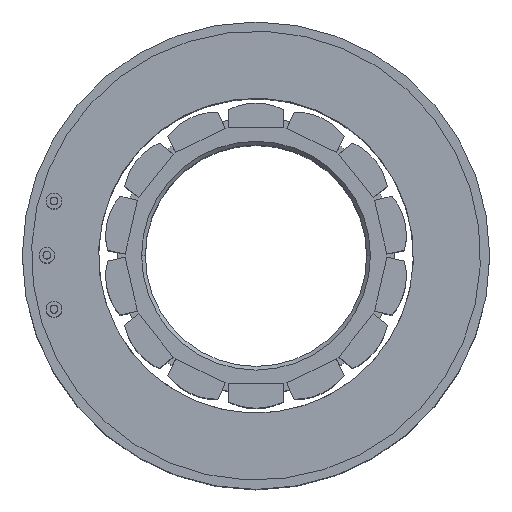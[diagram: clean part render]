
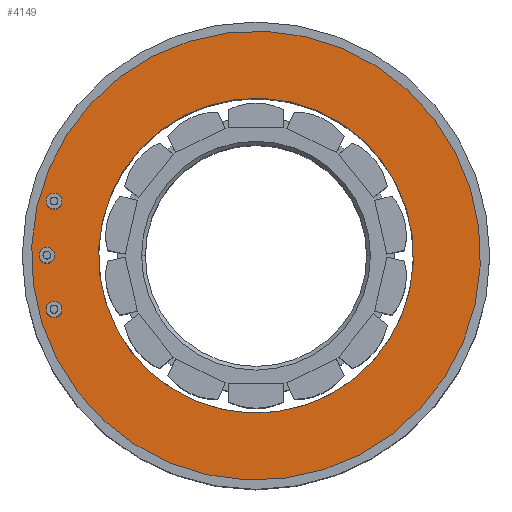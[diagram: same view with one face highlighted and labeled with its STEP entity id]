
A CAD part, top view. The second image highlights one B-rep face of the part: STEP entity #4149.
In plain terms, the highlighted planar face has unit normal (0, 0, 1).
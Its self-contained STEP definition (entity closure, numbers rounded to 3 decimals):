
#92 = CARTESIAN_POINT ( 'NONE',  ( 0., 0., 30.8 ) ) ;
#102 = ORIENTED_EDGE ( 'NONE', *, *, #680, .F. ) ;
#168 = CARTESIAN_POINT ( 'NONE',  ( 0., 0., 30.8 ) ) ;
#285 = EDGE_LOOP ( 'NONE', ( #2591, #807 ) ) ;
#353 = AXIS2_PLACEMENT_3D ( 'NONE', #168, #2746, #1538 ) ;
#435 = FACE_BOUND ( 'NONE', #475, .T. ) ;
#475 = EDGE_LOOP ( 'NONE', ( #102, #2795 ) ) ;
#626 = AXIS2_PLACEMENT_3D ( 'NONE', #3591, #1326, #2178 ) ;
#680 = EDGE_CURVE ( 'NONE', #5656, #1896, #3918, .T. ) ;
#708 = DIRECTION ( 'NONE',  ( 0., 0., 1. ) ) ;
#745 = CARTESIAN_POINT ( 'NONE',  ( 0., 0., 30.8 ) ) ;
#762 = CARTESIAN_POINT ( 'NONE',  ( 9.844, 15.367, 30.8 ) ) ;
#807 = ORIENTED_EDGE ( 'NONE', *, *, #4401, .T. ) ;
#812 = DIRECTION ( 'NONE',  ( 0., 0., 1. ) ) ;
#930 = VERTEX_POINT ( 'NONE', #762 ) ;
#1086 = CIRCLE ( 'NONE', #4288, 12.8 ) ;
#1326 = DIRECTION ( 'NONE',  ( 0., 0., 1. ) ) ;
#1438 = CARTESIAN_POINT ( 'NONE',  ( 6.904, 10.778, 30.8 ) ) ;
#1538 = DIRECTION ( 'NONE',  ( -0.539, -0.842, 0. ) ) ;
#1641 = CIRCLE ( 'NONE', #3369, 18.25 ) ;
#1896 = VERTEX_POINT ( 'NONE', #5200 ) ;
#1929 = CIRCLE ( 'NONE', #4121, 18.25 ) ;
#1957 = DIRECTION ( 'NONE',  ( 0., 0., 1. ) ) ;
#2050 = DIRECTION ( 'NONE',  ( -0.539, -0.842, 0. ) ) ;
#2178 = DIRECTION ( 'NONE',  ( -0.539, -0.842, 0. ) ) ;
#2188 = CARTESIAN_POINT ( 'NONE',  ( -9.844, -15.367, 30.8 ) ) ;
#2407 = EDGE_CURVE ( 'NONE', #930, #2474, #1929, .T. ) ;
#2474 = VERTEX_POINT ( 'NONE', #2188 ) ;
#2591 = ORIENTED_EDGE ( 'NONE', *, *, #2407, .T. ) ;
#2613 = FACE_OUTER_BOUND ( 'NONE', #285, .T. ) ;
#2746 = DIRECTION ( 'NONE',  ( 0., 0., 1. ) ) ;
#2795 = ORIENTED_EDGE ( 'NONE', *, *, #5638, .F. ) ;
#3369 = AXIS2_PLACEMENT_3D ( 'NONE', #745, #708, #5155 ) ;
#3591 = CARTESIAN_POINT ( 'NONE',  ( 0., 0., 30.8 ) ) ;
#3698 = DIRECTION ( 'NONE',  ( -0.539, -0.842, 0. ) ) ;
#3918 = CIRCLE ( 'NONE', #353, 12.8 ) ;
#4121 = AXIS2_PLACEMENT_3D ( 'NONE', #4228, #812, #2050 ) ;
#4149 = ADVANCED_FACE ( 'NONE', ( #2613, #435 ), #5225, .T. ) ;
#4228 = CARTESIAN_POINT ( 'NONE',  ( 0., 0., 30.8 ) ) ;
#4288 = AXIS2_PLACEMENT_3D ( 'NONE', #92, #1957, #3698 ) ;
#4401 = EDGE_CURVE ( 'NONE', #2474, #930, #1641, .T. ) ;
#5155 = DIRECTION ( 'NONE',  ( -0.539, -0.842, 0. ) ) ;
#5200 = CARTESIAN_POINT ( 'NONE',  ( -6.904, -10.778, 30.8 ) ) ;
#5225 = PLANE ( 'NONE',  #626 ) ;
#5638 = EDGE_CURVE ( 'NONE', #1896, #5656, #1086, .T. ) ;
#5656 = VERTEX_POINT ( 'NONE', #1438 ) ;
